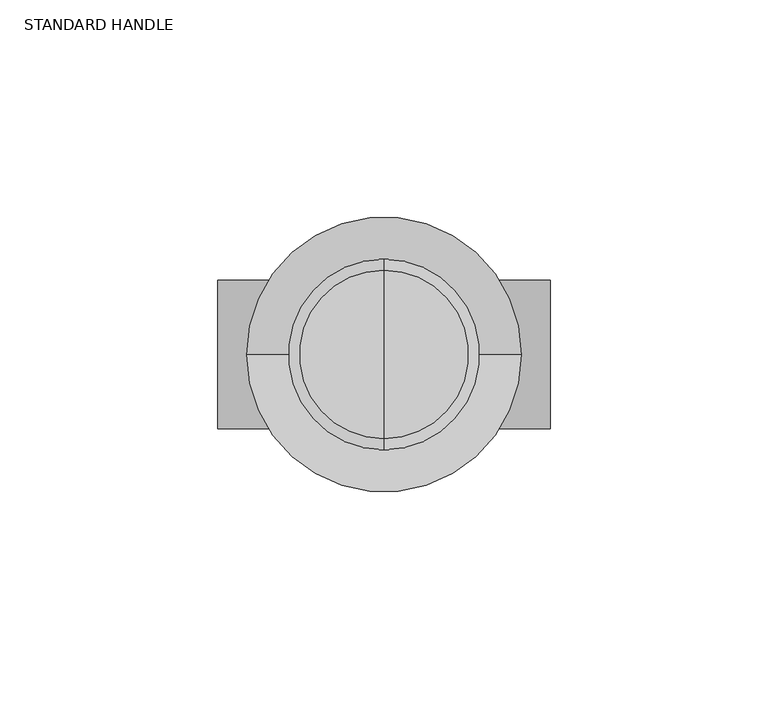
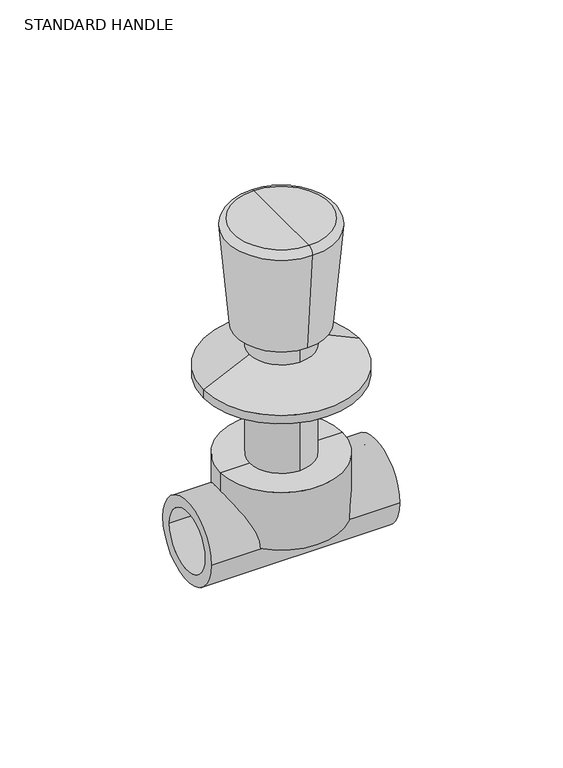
"""IFC4 building model written with IfcOpenShell, lengths in millimetres: valve geometry, Aquatherm - Concealed Valve Standard With Handle : STANDARD HANDLE."""

from ifc_helpers import new_model, si_unit, point, frame, origin, origin_2d, place, context, project, spatial, polyline, circle_curve, ellipse_curve, trimmed, segment, composite_curve, outline, extrude, source, transform, mapped, element, save
from ifc_brep_helpers import plane_surface, cylinder_surface, revolved_surface, advanced_brep


def standard_handle_b98c6ee3(model_context):
    return source(origin(), model_context, "Body", "SolidModel", [
        advanced_brep(
        [(0.0, 19.3406564, 124.968), (0.0, -19.3406564, 124.968), (0.0, 0.0, 124.968), (0.0, 21.870991, 122.2066244), (0.0, -21.870991, 122.2066244), (0.0, 18.2125979, 80.391), (0.0, -18.2125979, 80.391), (0.0, 12.9442633, 80.391), (0.0, -12.9442633, 80.391), (0.0, 12.9442633, 71.181595), (0.0, -12.9442633, 71.181595), (0.0, 0.0, 71.181595)],
        [
            (0, 1, circle_curve(frame((0.0, 0.0, 124.968), z_axis=(0.0, 0.0, 1.0), x_axis=(0.0, -1.0, 0.0)), 19.3406564)),
            (1, 2),
            (2, 0),
            (1, 0, circle_curve(frame((0.0, 0.0, 124.968), z_axis=(0.0, 0.0, 1.0), x_axis=(0.0, -1.0, 0.0)), 19.3406564)),
            (3, 4, circle_curve(frame((0.0, 0.0, 122.2066244), z_axis=(0.0, 0.0, 1.0), x_axis=(0.0, -1.0, 0.0)), 21.870991)),
            (4, 1, circle_curve(frame((0.0, -19.3406564, 122.428), z_axis=(-1.0, 0.0, 0.0), x_axis=(0.0, -1.0, 0.0)), 2.54)),
            (0, 3, circle_curve(frame((0.0, 19.3406564, 122.428), z_axis=(-1.0, 0.0, 0.0), x_axis=(0.0, 1.0, 0.0)), 2.54)),
            (4, 3, circle_curve(frame((0.0, 0.0, 122.2066244), z_axis=(0.0, 0.0, 1.0), x_axis=(0.0, -1.0, 0.0)), 21.870991)),
            (5, 6, circle_curve(frame((0.0, 0.0, 80.391), z_axis=(0.0, 0.0, 1.0), x_axis=(0.0, -1.0, 0.0)), 18.2125979)),
            (6, 4),
            (3, 5),
            (6, 5, circle_curve(frame((0.0, 0.0, 80.391), z_axis=(0.0, 0.0, 1.0), x_axis=(0.0, -1.0, 0.0)), 18.2125979)),
            (7, 8, circle_curve(frame((0.0, 0.0, 80.391), z_axis=(0.0, 0.0, 1.0), x_axis=(0.0, -1.0, 0.0)), 12.9442633)),
            (8, 6),
            (5, 7),
            (8, 7, circle_curve(frame((0.0, 0.0, 80.391), z_axis=(0.0, 0.0, 1.0), x_axis=(0.0, -1.0, 0.0)), 12.9442633)),
            (9, 10, circle_curve(frame((0.0, 0.0, 71.181595), z_axis=(0.0, 0.0, 1.0), x_axis=(0.0, -1.0, 0.0)), 12.9442633)),
            (10, 8),
            (7, 9),
            (10, 9, circle_curve(frame((0.0, 0.0, 71.181595), z_axis=(0.0, 0.0, 1.0), x_axis=(0.0, -1.0, 0.0)), 12.9442633)),
            (11, 10),
            (9, 11),
        ],
        [
            plane_surface(frame((0.0, 0.0, 124.968), z_axis=(0.0, 0.0, 1.0), x_axis=(0.0, -1.0, 0.0))),
            revolved_surface(trimmed(ellipse_curve(frame((0.0, -19.3406564, 122.428), z_axis=(1.0, 0.0, 0.0), x_axis=(0.0, -1.0, 0.0)), 2.54, 2.54), [point((0.0, -19.3406564, 124.968))], [point((0.0, -21.870991, 122.2066244))], True, "CARTESIAN"), (0.0, 0.0, 147.5476097), (0.0, 0.0, -1.0)),
            revolved_surface(polyline([(0.0, -21.870991, 122.2066244), (0.0, -18.2125979, 80.391)]), (0.0, 0.0, 147.5476097), (0.0, 0.0, -1.0)),
            plane_surface(frame((0.0, 0.0, 80.391), z_axis=(0.0, 0.0, -1.0), x_axis=(0.0, -1.0, 0.0))),
            cylinder_surface(frame((0.0, 0.0, 147.5476097), z_axis=(0.0, 0.0, -1.0), x_axis=(0.0, -1.0, 0.0)), 12.9442633),
            plane_surface(frame((0.0, 0.0, 71.181595), z_axis=(0.0, 0.0, -1.0), x_axis=(0.0, -1.0, 0.0))),
        ],
        [
            (0, [[1, 2, 3]]),
            (0, [[4, -3, -2]]),
            (1, [[5, 6, -1, 7]]),
            (1, [[8, -7, -4, -6]]),
            (2, [[9, 10, -5, 11]]),
            (2, [[12, -11, -8, -10]]),
            (3, [[13, 14, -9, 15]]),
            (3, [[16, -15, -12, -14]]),
            (4, [[17, 18, -13, 19]]),
            (4, [[20, -19, -16, -18]]),
            (5, [[21, -17, 22]]),
            (5, [[-22, -20, -21]]),
        ],
    ),
        advanced_brep(
        [(-12.827, 0.0, 71.181595), (12.827, 0.0, 71.181595), (-31.496, 0.0, 62.4797667), (31.496, 0.0, 62.4797667)],
        [
            (0, 1, circle_curve(frame((0.0, 0.0, 71.181595), z_axis=(0.0, 0.0, 1.0), x_axis=(-1.0, 0.0, 0.0)), 12.827)),
            (1, 0, circle_curve(frame((0.0, 0.0, 71.181595), z_axis=(0.0, 0.0, 1.0), x_axis=(1.0, 0.0, 0.0)), 12.827)),
            (2, 3, circle_curve(frame((0.0, 0.0, 62.4797667), z_axis=(0.0, 0.0, -1.0), x_axis=(1.0, 0.0, 0.0)), 31.496)),
            (3, 2, circle_curve(frame((0.0, 0.0, 62.4797667), z_axis=(0.0, 0.0, -1.0), x_axis=(-1.0, 0.0, 0.0)), 31.496)),
            (3, 1),
            (0, 2),
        ],
        [
            plane_surface(frame((0.0, 0.0, 71.181595), z_axis=(0.0, 0.0, 1.0), x_axis=(0.0, -1.0, 0.0))),
            plane_surface(frame((0.0, 0.0, 62.4797667), z_axis=(0.0, 0.0, -1.0), x_axis=(0.0, -1.0, 0.0))),
            revolved_surface(polyline([(-12.827000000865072, 0.0, 71.181595), (-31.496, 0.0, 62.4797667)]), (0.0, 0.0, 77.1604022), (0.0, 0.0, -1.0)),
            revolved_surface(polyline([(12.827000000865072, 0.0, 71.181595), (31.496, 0.0, 62.4797667)]), (0.0, 0.0, 77.1604022), (0.0, 0.0, -1.0)),
        ],
        [
            (0, [[1, 2]]),
            (1, [[3, 4]]),
            (2, [[-4, 5, -1, 6]]),
            (3, [[-3, -6, -2, -5]]),
        ],
    ),
        extrude(outline(composite_curve([segment(trimmed(circle_curve(origin_2d(), 31.496), [point((-31.496, 0.0))], [point((31.496, 0.0))], False, "CARTESIAN"), True, "CONTINUOUS"), segment(trimmed(circle_curve(origin_2d(), 31.496), [point((31.496, 0.0))], [point((-31.496, 0.0))], False, "CARTESIAN"), True, "CONTINUOUS")], self_intersect=False)), frame((0.0, 0.0, 58.928), z_axis=(0.0, 0.0, 1.0), x_axis=(1.0, 0.0, 0.0)), (0.0, 0.0, 1.0), 3.5517667),
        extrude(outline(composite_curve([segment(trimmed(circle_curve(origin_2d(), 12.827), [point((0.0, 12.827))], [point((0.0, -12.827))], False, "CARTESIAN"), True, "CONTINUOUS"), segment(trimmed(circle_curve(origin_2d(), 12.827), [point((0.0, -12.827))], [point((0.0, 12.827))], False, "CARTESIAN"), True, "CONTINUOUS")], self_intersect=False)), frame((0.0, 0.0, 24.638), z_axis=(0.0, 0.0, 1.0), x_axis=(1.0, 0.0, 0.0)), (0.0, 0.0, 1.0), 34.29),
        advanced_brep(
        [(0.0, 0.0, 24.638), (24.638, 0.0, 24.638), (-24.638, 0.0, 24.638), (-24.638, 0.0, 0.0), (24.638, 0.0, 0.0), (0.0, 0.0, 0.0)],
        [
            (0, 1),
            (1, 2, circle_curve(frame((0.0, 0.0, 24.638), z_axis=(0.0, 0.0, 1.0), x_axis=(1.0, 0.0, 0.0)), 24.638)),
            (2, 0),
            (2, 1, circle_curve(frame((0.0, 0.0, 24.638), z_axis=(0.0, 0.0, 1.0), x_axis=(1.0, 0.0, 0.0)), 24.638)),
            (3, 4, circle_curve(frame((0.0, 0.0, 0.0), z_axis=(0.0, 0.0, -1.0), x_axis=(1.0, 0.0, 0.0)), 24.638)),
            (4, 5),
            (5, 3),
            (4, 3, circle_curve(frame((0.0, 0.0, 0.0), z_axis=(0.0, 0.0, -1.0), x_axis=(1.0, 0.0, 0.0)), 24.638)),
            (1, 4),
            (3, 2),
        ],
        [
            plane_surface(frame((0.0, 0.0, 24.638), z_axis=(0.0, 0.0, 1.0), x_axis=(1.0, 0.0, 0.0))),
            plane_surface(frame((0.0, 0.0, 0.0), z_axis=(0.0, 0.0, -1.0), x_axis=(1.0, 0.0, 0.0))),
            cylinder_surface(frame((0.0, 0.0, 60.5254888), z_axis=(0.0, 0.0, 1.0), x_axis=(1.0, 0.0, 0.0)), 24.638),
        ],
        [
            (0, [[1, 2, 3]]),
            (0, [[-3, 4, -1]]),
            (1, [[5, 6, 7]]),
            (1, [[8, -7, -6]]),
            (2, [[-2, 9, -5, 10]]),
            (2, [[-4, -10, -8, -9]]),
        ],
    ),
        extrude(outline(composite_curve([segment(trimmed(circle_curve(origin_2d(), 17.018), [point((-17.018, 0.0))], [point((17.018, 0.0))], False, "CARTESIAN"), True, "CONTINUOUS"), segment(trimmed(circle_curve(origin_2d(), 17.018), [point((17.018, 0.0))], [point((-17.018, 0.0))], False, "CARTESIAN"), True, "CONTINUOUS")], self_intersect=False), holes=[composite_curve([segment(trimmed(circle_curve(origin_2d(), 12.446), [point((-12.446, 0.0))], [point((12.446, 0.0))], True, "CARTESIAN"), True, "CONTINUOUS"), segment(trimmed(circle_curve(origin_2d(), 12.446), [point((12.446, 0.0))], [point((-12.446, 0.0))], True, "CARTESIAN"), True, "CONTINUOUS")], self_intersect=False)]), frame((-38.1, 0.0, 0.0), z_axis=(1.0, 0.0, 0.0), x_axis=(0.0, 1.0, 0.0)), (0.0, 0.0, 1.0), 76.2),
    ])


if __name__ == "__main__":
    model = new_model("IFC4")
    model_context = context("Model", 3, world=origin())
    ifc_project = project(units=[si_unit("LENGTHUNIT", "METRE", prefix="MILLI")], contexts=[model_context])
    site = spatial("IfcSite", under=ifc_project)
    building = spatial("IfcBuilding", under=site)
    placement = place(None, origin())
    standard_handle_shape = standard_handle_b98c6ee3(model_context)
    element("IfcValve", 1, ObjectType="Aquatherm - Concealed Valve Standard With Handle : STANDARD HANDLE", at=placement, inside=building, context=model_context, shape_type="MappedRepresentation", body=[
        mapped(standard_handle_shape, transform((0.0, 0.0, 0.0), x_axis=(1.0, 0.0, 0.0), y_axis=(0.0, 1.0, 0.0), z_axis=(0.0, 0.0, 1.0))),
    ])
    save(model, "model.ifc")
